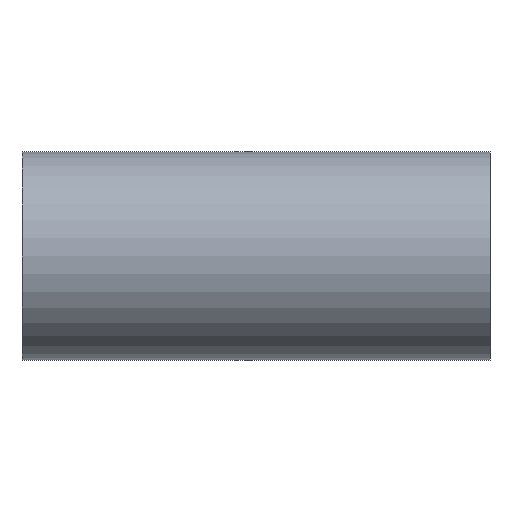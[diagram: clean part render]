
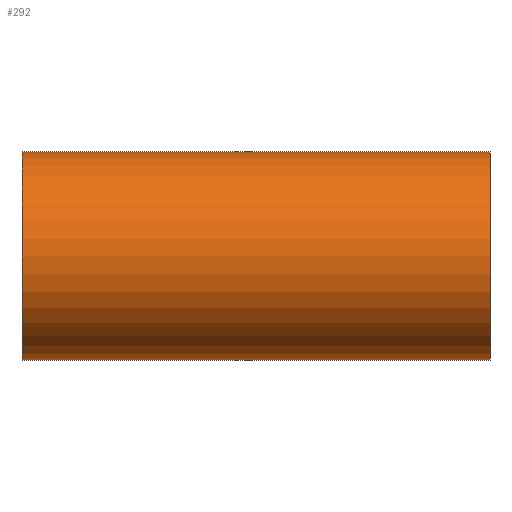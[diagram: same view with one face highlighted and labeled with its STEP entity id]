
A CAD part, front view. The second image highlights one B-rep face of the part: STEP entity #292.
In plain terms, the highlighted cylindrical face has radius 38.1 mm (diameter 76.2 mm), a partial arc.
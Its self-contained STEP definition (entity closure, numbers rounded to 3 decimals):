
#5 = VECTOR ( 'NONE', #273, 1000. ) ;
#27 = AXIS2_PLACEMENT_3D ( 'NONE', #534, #427, #488 ) ;
#36 = CYLINDRICAL_SURFACE ( 'NONE', #27, 38.1 ) ;
#38 = DIRECTION ( 'NONE',  ( -1., 0., 0. ) ) ;
#49 = CARTESIAN_POINT ( 'NONE',  ( 85.7, 0., -38.1 ) ) ;
#52 = ORIENTED_EDGE ( 'NONE', *, *, #76, .T. ) ;
#54 = CIRCLE ( 'NONE', #287, 38.1 ) ;
#76 = EDGE_CURVE ( 'NONE', #144, #496, #374, .T. ) ;
#113 = FACE_OUTER_BOUND ( 'NONE', #241, .T. ) ;
#115 = EDGE_CURVE ( 'NONE', #159, #144, #158, .T. ) ;
#117 = DIRECTION ( 'NONE',  ( 0., 0., -1. ) ) ;
#121 = ORIENTED_EDGE ( 'NONE', *, *, #139, .T. ) ;
#139 = EDGE_CURVE ( 'NONE', #496, #284, #54, .T. ) ;
#144 = VERTEX_POINT ( 'NONE', #434 ) ;
#149 = CARTESIAN_POINT ( 'NONE',  ( -85.7, 0., 38.1 ) ) ;
#155 = CARTESIAN_POINT ( 'NONE',  ( -85.7, 0., 0. ) ) ;
#158 = CIRCLE ( 'NONE', #223, 38.1 ) ;
#159 = VERTEX_POINT ( 'NONE', #194 ) ;
#194 = CARTESIAN_POINT ( 'NONE',  ( -85.7, 0., 38.1 ) ) ;
#223 = AXIS2_PLACEMENT_3D ( 'NONE', #155, #435, #117 ) ;
#241 = EDGE_LOOP ( 'NONE', ( #479, #432, #52, #121 ) ) ;
#258 = VECTOR ( 'NONE', #291, 1000. ) ;
#273 = DIRECTION ( 'NONE',  ( 1., 0., 0. ) ) ;
#284 = VERTEX_POINT ( 'NONE', #304 ) ;
#286 = DIRECTION ( 'NONE',  ( 0., 0., -1. ) ) ;
#287 = AXIS2_PLACEMENT_3D ( 'NONE', #335, #38, #286 ) ;
#291 = DIRECTION ( 'NONE',  ( 1., 0., 0. ) ) ;
#292 = ADVANCED_FACE ( 'NONE', ( #113 ), #36, .T. ) ;
#304 = CARTESIAN_POINT ( 'NONE',  ( 85.7, 0., 38.1 ) ) ;
#311 = EDGE_CURVE ( 'NONE', #159, #284, #375, .T. ) ;
#335 = CARTESIAN_POINT ( 'NONE',  ( 85.7, 0., 0. ) ) ;
#374 = LINE ( 'NONE', #521, #258 ) ;
#375 = LINE ( 'NONE', #149, #5 ) ;
#427 = DIRECTION ( 'NONE',  ( 1., 0., 0. ) ) ;
#432 = ORIENTED_EDGE ( 'NONE', *, *, #115, .T. ) ;
#434 = CARTESIAN_POINT ( 'NONE',  ( -85.7, 0., -38.1 ) ) ;
#435 = DIRECTION ( 'NONE',  ( 1., 0., 0. ) ) ;
#479 = ORIENTED_EDGE ( 'NONE', *, *, #311, .F. ) ;
#488 = DIRECTION ( 'NONE',  ( 0., 0., -1. ) ) ;
#496 = VERTEX_POINT ( 'NONE', #49 ) ;
#521 = CARTESIAN_POINT ( 'NONE',  ( -85.7, 0., -38.1 ) ) ;
#534 = CARTESIAN_POINT ( 'NONE',  ( -85.7, 0., 0. ) ) ;
